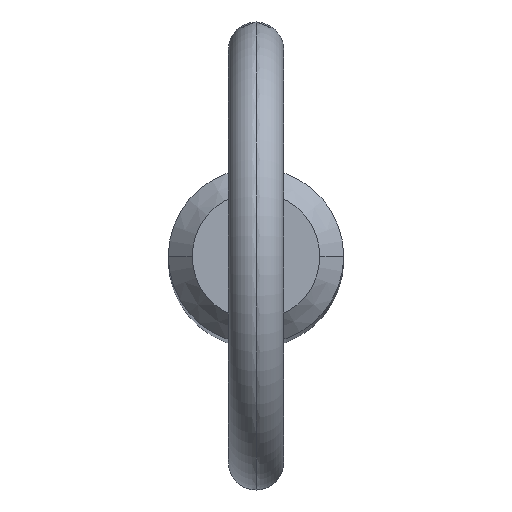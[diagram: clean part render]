
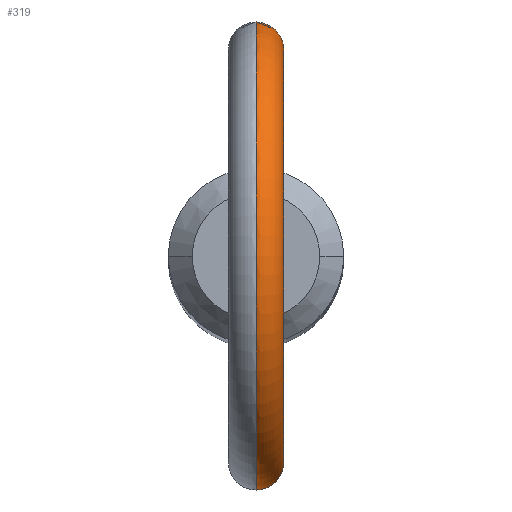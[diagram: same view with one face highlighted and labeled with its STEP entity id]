
A CAD part, top view. The second image highlights one B-rep face of the part: STEP entity #319.
In plain terms, the highlighted toroidal (fillet/blend) face has major radius 11.2 mm and minor radius 1.5 mm.
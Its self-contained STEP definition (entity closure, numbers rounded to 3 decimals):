
#6 = VERTEX_POINT ( 'NONE', #129 ) ;
#9 = CARTESIAN_POINT ( 'NONE',  ( 0.771, 4.698, 105.575 ) ) ;
#14 = CARTESIAN_POINT ( 'NONE',  ( 0., 4.76, 105.848 ) ) ;
#20 = CARTESIAN_POINT ( 'NONE',  ( 0.997, -4.655, 105.364 ) ) ;
#23 = CARTESIAN_POINT ( 'NONE',  ( 0., 0., 114.3 ) ) ;
#29 = CARTESIAN_POINT ( 'NONE',  ( 1.45, -4.534, 103.628 ) ) ;
#43 = CARTESIAN_POINT ( 'NONE',  ( 0.968, 4.663, 102.849 ) ) ;
#53 = DIRECTION ( 'NONE',  ( 1., 0., 0. ) ) ;
#57 = FACE_OUTER_BOUND ( 'NONE', #365, .T. ) ;
#61 = EDGE_CURVE ( 'NONE', #347, #6, #74, .T. ) ;
#62 = CARTESIAN_POINT ( 'NONE',  ( 0.208, 4.76, 105.848 ) ) ;
#66 = CARTESIAN_POINT ( 'NONE',  ( 1.478, -4.525, 104.352 ) ) ;
#68 = CARTESIAN_POINT ( 'NONE',  ( 1.344, -4.567, 103.339 ) ) ;
#71 = CARTESIAN_POINT ( 'NONE',  ( 1.178, -4.613, 103.076 ) ) ;
#74 = CIRCLE ( 'NONE', #88, 12.7 ) ;
#88 = AXIS2_PLACEMENT_3D ( 'NONE', #305, #53, #374 ) ;
#98 = CIRCLE ( 'NONE', #284, 9.7 ) ;
#109 = CARTESIAN_POINT ( 'NONE',  ( 1.499, -4.518, 103.937 ) ) ;
#113 = CARTESIAN_POINT ( 'NONE',  ( 0.97, -4.662, 102.85 ) ) ;
#116 = B_SPLINE_CURVE_WITH_KNOTS ( 'NONE', 3,
 ( #428, #161, #393, #318, #467, #435, #168, #470, #20, #350, #394, #323, #464, #66, #354, #282, #109, #200, #29, #164, #68, #202, #71, #113, #355, #245, #324, #431, #117, #239 ),
 .UNSPECIFIED., .F., .F.,
 ( 4, 2, 2, 2, 2, 2, 2, 2, 2, 2, 2, 2, 2, 2, 4 ),
 ( 0.004, 0.005, 0.005, 0.005, 0.006, 0.006, 0.007, 0.007, 0.007, 0.007, 0.008, 0.008, 0.009, 0.009, 0.009 ),
 .UNSPECIFIED. ) ;
#117 = CARTESIAN_POINT ( 'NONE',  ( 0.105, -4.76, 102.526 ) ) ;
#126 = DIRECTION ( 'NONE',  ( 1., 0., 0. ) ) ;
#129 = CARTESIAN_POINT ( 'NONE',  ( 0., -4.76, 102.526 ) ) ;
#130 = CARTESIAN_POINT ( 'NONE',  ( 1.177, 4.613, 103.075 ) ) ;
#132 = CARTESIAN_POINT ( 'NONE',  ( 0.411, 4.743, 102.577 ) ) ;
#134 = CARTESIAN_POINT ( 'NONE',  ( 0.511, 4.733, 102.608 ) ) ;
#144 = VERTEX_POINT ( 'NONE', #380 ) ;
#159 = ORIENTED_EDGE ( 'NONE', *, *, #320, .F. ) ;
#161 = CARTESIAN_POINT ( 'NONE',  ( 0.104, -4.76, 105.848 ) ) ;
#164 = CARTESIAN_POINT ( 'NONE',  ( 1.385, -4.554, 103.432 ) ) ;
#168 = CARTESIAN_POINT ( 'NONE',  ( 0.77, -4.698, 105.575 ) ) ;
#195 = CARTESIAN_POINT ( 'NONE',  ( 0.415, 4.745, 105.788 ) ) ;
#200 = CARTESIAN_POINT ( 'NONE',  ( 1.473, -4.526, 103.731 ) ) ;
#202 = CARTESIAN_POINT ( 'NONE',  ( 1.24, -4.596, 103.16 ) ) ;
#209 = CARTESIAN_POINT ( 'NONE',  ( 0., 0., 114.3 ) ) ;
#217 = CARTESIAN_POINT ( 'NONE',  ( 0.795, 4.697, 102.728 ) ) ;
#224 = CARTESIAN_POINT ( 'NONE',  ( 1.508, 4.515, 103.937 ) ) ;
#226 = ORIENTED_EDGE ( 'NONE', *, *, #509, .F. ) ;
#239 = CARTESIAN_POINT ( 'NONE',  ( 0., -4.76, 102.526 ) ) ;
#245 = CARTESIAN_POINT ( 'NONE',  ( 0.512, -4.733, 102.608 ) ) ;
#260 = CARTESIAN_POINT ( 'NONE',  ( 0., 4.76, 102.526 ) ) ;
#263 = CARTESIAN_POINT ( 'NONE',  ( 1.385, 4.554, 103.43 ) ) ;
#264 = VERTEX_POINT ( 'NONE', #436 ) ;
#276 = CARTESIAN_POINT ( 'NONE',  ( 0.925, 4.67, 105.44 ) ) ;
#278 = CARTESIAN_POINT ( 'NONE',  ( 1.441, 4.537, 104.559 ) ) ;
#282 = CARTESIAN_POINT ( 'NONE',  ( 1.503, -4.517, 104.04 ) ) ;
#284 = AXIS2_PLACEMENT_3D ( 'NONE', #23, #506, #358 ) ;
#305 = CARTESIAN_POINT ( 'NONE',  ( 0., 0., 114.3 ) ) ;
#310 = CARTESIAN_POINT ( 'NONE',  ( 0.685, 4.711, 105.636 ) ) ;
#318 = CARTESIAN_POINT ( 'NONE',  ( 0.409, -4.743, 105.778 ) ) ;
#319 = ADVANCED_FACE ( 'NONE', ( #57 ), #468, .T. ) ;
#320 = EDGE_CURVE ( 'NONE', #347, #144, #499, .T. ) ;
#323 = CARTESIAN_POINT ( 'NONE',  ( 1.404, -4.548, 104.653 ) ) ;
#324 = CARTESIAN_POINT ( 'NONE',  ( 0.411, -4.743, 102.577 ) ) ;
#347 = VERTEX_POINT ( 'NONE', #461 ) ;
#350 = CARTESIAN_POINT ( 'NONE',  ( 1.19, -4.611, 105.124 ) ) ;
#354 = CARTESIAN_POINT ( 'NONE',  ( 1.492, -4.52, 104.248 ) ) ;
#355 = CARTESIAN_POINT ( 'NONE',  ( 0.797, -4.697, 102.729 ) ) ;
#358 = DIRECTION ( 'NONE',  ( 0., 0., -1. ) ) ;
#365 = EDGE_LOOP ( 'NONE', ( #159, #487, #465, #226 ) ) ;
#368 = CARTESIAN_POINT ( 'NONE',  ( 0.207, 4.757, 102.536 ) ) ;
#372 = CARTESIAN_POINT ( 'NONE',  ( 1.484, 4.523, 103.728 ) ) ;
#373 = EDGE_CURVE ( 'NONE', #264, #6, #116, .T. ) ;
#374 = DIRECTION ( 'NONE',  ( 0., 0., -1. ) ) ;
#380 = CARTESIAN_POINT ( 'NONE',  ( 0., 4.76, 105.848 ) ) ;
#385 = CARTESIAN_POINT ( 'NONE',  ( 1.292, 4.582, 104.944 ) ) ;
#391 = AXIS2_PLACEMENT_3D ( 'NONE', #209, #126, #525 ) ;
#393 = CARTESIAN_POINT ( 'NONE',  ( 0.209, -4.756, 105.834 ) ) ;
#394 = CARTESIAN_POINT ( 'NONE',  ( 1.293, -4.582, 104.942 ) ) ;
#408 = CARTESIAN_POINT ( 'NONE',  ( 0.104, 4.76, 102.526 ) ) ;
#424 = CARTESIAN_POINT ( 'NONE',  ( 0.996, 4.655, 105.366 ) ) ;
#428 = CARTESIAN_POINT ( 'NONE',  ( 0., -4.76, 105.848 ) ) ;
#431 = CARTESIAN_POINT ( 'NONE',  ( 0.208, -4.757, 102.536 ) ) ;
#435 = CARTESIAN_POINT ( 'NONE',  ( 0.687, -4.711, 105.635 ) ) ;
#436 = CARTESIAN_POINT ( 'NONE',  ( 0., -4.76, 105.848 ) ) ;
#461 = CARTESIAN_POINT ( 'NONE',  ( 0., 4.76, 102.526 ) ) ;
#464 = CARTESIAN_POINT ( 'NONE',  ( 1.434, -4.539, 104.554 ) ) ;
#465 = ORIENTED_EDGE ( 'NONE', *, *, #373, .F. ) ;
#467 = CARTESIAN_POINT ( 'NONE',  ( 0.506, -4.734, 105.737 ) ) ;
#468 = TOROIDAL_SURFACE ( 'NONE', #391, 11.2, 1.5 ) ;
#470 = CARTESIAN_POINT ( 'NONE',  ( 0.925, -4.67, 105.439 ) ) ;
#480 = CARTESIAN_POINT ( 'NONE',  ( 1.239, 4.596, 103.159 ) ) ;
#484 = CARTESIAN_POINT ( 'NONE',  ( 1.343, 4.567, 103.337 ) ) ;
#487 = ORIENTED_EDGE ( 'NONE', *, *, #61, .T. ) ;
#496 = CARTESIAN_POINT ( 'NONE',  ( 1.188, 4.611, 105.127 ) ) ;
#499 = B_SPLINE_CURVE_WITH_KNOTS ( 'NONE', 3,
 ( #260, #408, #368, #132, #134, #217, #43, #130, #480, #484, #263, #372, #224, #522, #278, #385, #496, #424, #276, #9, #310, #195, #62, #14 ),
 .UNSPECIFIED., .F., .F.,
 ( 4, 2, 2, 2, 2, 2, 2, 2, 2, 2, 2, 4 ),
 ( 0.001, 0.001, 0.001, 0.002, 0.002, 0.002, 0.003, 0.004, 0.004, 0.005, 0.005, 0.006 ),
 .UNSPECIFIED. ) ;
#506 = DIRECTION ( 'NONE',  ( 1., 0., 0. ) ) ;
#509 = EDGE_CURVE ( 'NONE', #144, #264, #98, .T. ) ;
#522 = CARTESIAN_POINT ( 'NONE',  ( 1.487, 4.522, 104.353 ) ) ;
#525 = DIRECTION ( 'NONE',  ( 0., 0., -1. ) ) ;
